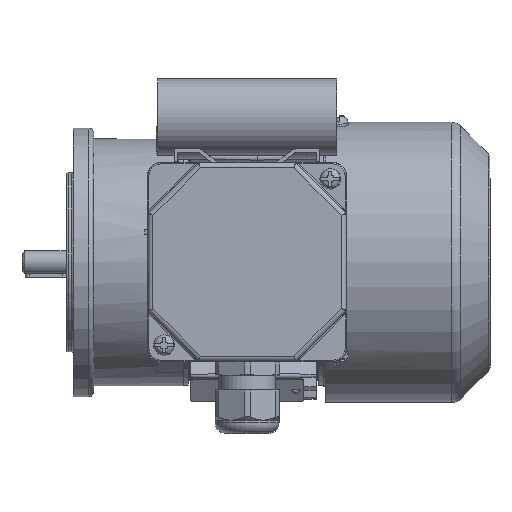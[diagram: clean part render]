
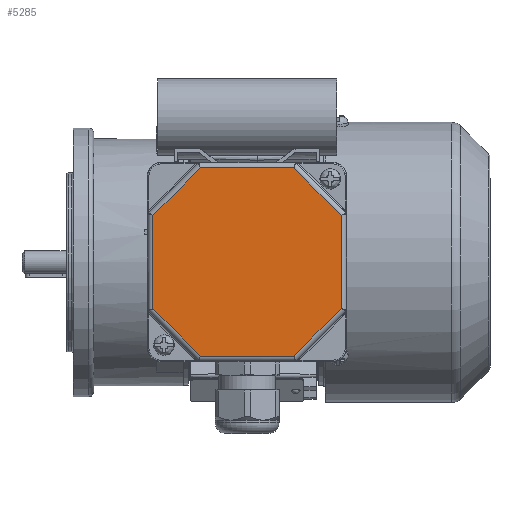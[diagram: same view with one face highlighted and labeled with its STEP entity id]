
A CAD part, top view. The second image highlights one B-rep face of the part: STEP entity #5285.
In plain terms, the highlighted planar face has unit normal (0, 0, 1).
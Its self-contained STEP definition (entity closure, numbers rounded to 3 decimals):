
#5285 = ADVANCED_FACE( '', ( #10463 ), #10464, .T. );
#10463 = FACE_OUTER_BOUND( '', #22630, .T. );
#10464 = PLANE( '', #22631 );
#22630 = EDGE_LOOP( '', ( #36363, #36364, #36365, #36366, #36367, #36368, #36369, #36370 ) );
#22631 = AXIS2_PLACEMENT_3D( '', #36371, #36372, #36373 );
#36363 = ORIENTED_EDGE( '', *, *, #40712, .T. );
#36364 = ORIENTED_EDGE( '', *, *, #41467, .T. );
#36365 = ORIENTED_EDGE( '', *, *, #38360, .T. );
#36366 = ORIENTED_EDGE( '', *, *, #41014, .T. );
#36367 = ORIENTED_EDGE( '', *, *, #40609, .T. );
#36368 = ORIENTED_EDGE( '', *, *, #39933, .T. );
#36369 = ORIENTED_EDGE( '', *, *, #41007, .T. );
#36370 = ORIENTED_EDGE( '', *, *, #40314, .T. );
#36371 = CARTESIAN_POINT( '', ( -39., 39., 12. ) );
#36372 = DIRECTION( '', ( 0., 0., 1. ) );
#36373 = DIRECTION( '', ( 1., 0., 0. ) );
#38360 = EDGE_CURVE( '', #44983, #45394, #45785, .F. );
#39933 = EDGE_CURVE( '', #45176, #47718, #48209, .T. );
#40314 = EDGE_CURVE( '', #47142, #47549, #48751, .T. );
#40609 = EDGE_CURVE( '', #49157, #45176, #49158, .F. );
#40712 = EDGE_CURVE( '', #47549, #48876, #49297, .F. );
#41007 = EDGE_CURVE( '', #47718, #47142, #49668, .F. );
#41014 = EDGE_CURVE( '', #45394, #49157, #49675, .T. );
#41467 = EDGE_CURVE( '', #48876, #44983, #50215, .T. );
#44983 = VERTEX_POINT( '', #55535 );
#45176 = VERTEX_POINT( '', #55914 );
#45394 = VERTEX_POINT( '', #56196 );
#45785 = LINE( '', #57155, #57156 );
#47142 = VERTEX_POINT( '', #59688 );
#47549 = VERTEX_POINT( '', #60759 );
#47718 = VERTEX_POINT( '', #61103 );
#48209 = LINE( '', #62132, #62133 );
#48751 = LINE( '', #63695, #63696 );
#48876 = VERTEX_POINT( '', #64023 );
#49157 = VERTEX_POINT( '', #64510 );
#49158 = LINE( '', #64511, #64512 );
#49297 = LINE( '', #64800, #64801 );
#49668 = LINE( '', #65421, #65422 );
#49675 = LINE( '', #65431, #65432 );
#50215 = LINE( '', #66648, #66649 );
#55535 = CARTESIAN_POINT( '', ( 18.255, 36.825, 12. ) );
#55914 = CARTESIAN_POINT( '', ( -36.825, -18.255, 12. ) );
#56196 = CARTESIAN_POINT( '', ( -18.255, 36.825, 12. ) );
#57155 = CARTESIAN_POINT( '', ( -19.069, 36.825, 12. ) );
#57156 = VECTOR( '', #70143, 1000. );
#59688 = CARTESIAN_POINT( '', ( 18.255, -36.825, 12. ) );
#60759 = CARTESIAN_POINT( '', ( 36.825, -18.255, 12. ) );
#61103 = CARTESIAN_POINT( '', ( -18.255, -36.825, 12. ) );
#62132 = CARTESIAN_POINT( '', ( -17.679, -37.401, 12. ) );
#62133 = VECTOR( '', #72273, 1000. );
#63695 = CARTESIAN_POINT( '', ( 37.401, -17.679, 12. ) );
#63696 = VECTOR( '', #72689, 1000. );
#64023 = CARTESIAN_POINT( '', ( 36.825, 18.255, 12. ) );
#64510 = CARTESIAN_POINT( '', ( -36.825, 18.255, 12. ) );
#64511 = CARTESIAN_POINT( '', ( -36.825, -19.069, 12. ) );
#64512 = VECTOR( '', #73026, 1000. );
#64800 = CARTESIAN_POINT( '', ( 36.825, 19.069, 12. ) );
#64801 = VECTOR( '', #73137, 1000. );
#65421 = CARTESIAN_POINT( '', ( 19.069, -36.825, 12. ) );
#65422 = VECTOR( '', #73471, 1000. );
#65431 = CARTESIAN_POINT( '', ( -37.401, 17.679, 12. ) );
#65432 = VECTOR( '', #73477, 1000. );
#66648 = CARTESIAN_POINT( '', ( 17.679, 37.401, 12. ) );
#66649 = VECTOR( '', #73901, 1000. );
#70143 = DIRECTION( '', ( 1., 0., 0. ) );
#72273 = DIRECTION( '', ( 0.707, -0.707, 0. ) );
#72689 = DIRECTION( '', ( 0.707, 0.707, 0. ) );
#73026 = DIRECTION( '', ( 0., 1., 0. ) );
#73137 = DIRECTION( '', ( 0., -1., 0. ) );
#73471 = DIRECTION( '', ( -1., 0., 0. ) );
#73477 = DIRECTION( '', ( -0.707, -0.707, 0. ) );
#73901 = DIRECTION( '', ( -0.707, 0.707, 0. ) );
